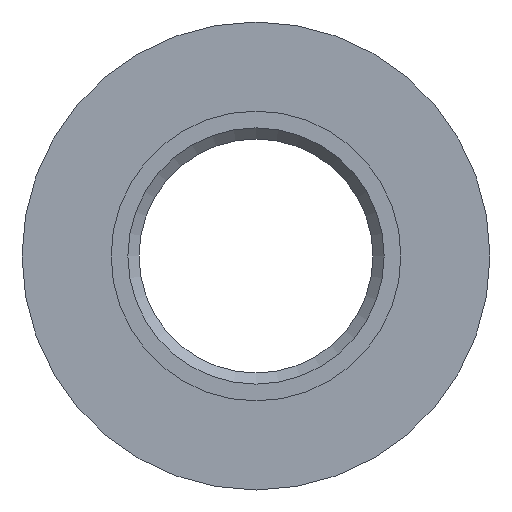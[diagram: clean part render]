
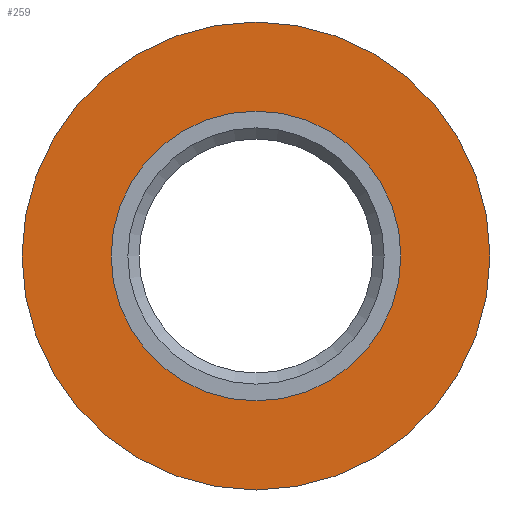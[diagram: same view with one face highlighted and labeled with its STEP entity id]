
A CAD part, front view. The second image highlights one B-rep face of the part: STEP entity #259.
In plain terms, the highlighted planar face has unit normal (0, -1, 0).
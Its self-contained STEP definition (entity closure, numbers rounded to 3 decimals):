
#103=PLANE('',#247);
#118=ORIENTED_EDGE('',*,*,#145,.T.);
#119=ORIENTED_EDGE('',*,*,#146,.F.);
#129=CIRCLE('',#246,10.5);
#130=CIRCLE('',#248,6.5);
#137=VERTEX_POINT('',#227);
#138=VERTEX_POINT('',#230);
#145=EDGE_CURVE('',#137,#137,#129,.T.);
#146=EDGE_CURVE('',#138,#138,#130,.T.);
#158=EDGE_LOOP('',(#118));
#159=EDGE_LOOP('',(#119));
#174=FACE_BOUND('',#158,.T.);
#175=FACE_BOUND('',#159,.T.);
#200=DIRECTION('',(0.,-1.,0.));
#201=DIRECTION('',(0.,0.,-10.5));
#202=DIRECTION('',(0.,-1.,0.));
#203=DIRECTION('',(-1.,0.,0.));
#204=DIRECTION('',(0.,-1.,0.));
#205=DIRECTION('',(0.,0.,-6.5));
#227=CARTESIAN_POINT('',(91.745,112.207,0.));
#228=CARTESIAN_POINT('',(81.245,112.207,0.));
#229=CARTESIAN_POINT('',(81.245,112.207,0.));
#230=CARTESIAN_POINT('',(87.745,112.207,0.));
#231=CARTESIAN_POINT('',(81.245,112.207,0.));
#246=AXIS2_PLACEMENT_3D('',#228,#200,#201);
#247=AXIS2_PLACEMENT_3D('',#229,#202,#203);
#248=AXIS2_PLACEMENT_3D('',#231,#204,#205);
#259=ADVANCED_FACE('',(#174,#175),#103,.T.);
